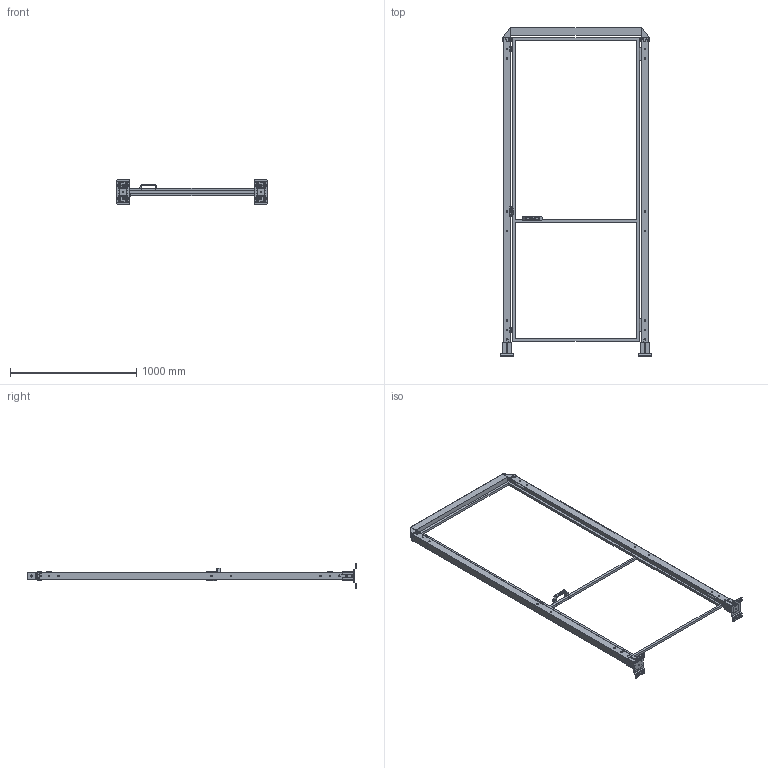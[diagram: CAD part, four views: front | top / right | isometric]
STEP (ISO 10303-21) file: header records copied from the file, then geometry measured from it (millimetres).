
FILE_DESCRIPTION(('STEP AP242'),'1');
FILE_NAME('vfda_bscncr2_10002520.stp','2025-01-31T11:16:05',('TraceParts'),('TraceParts S.A.'),'Spatial InterOp 3D',' ',' ');
FILE_SCHEMA(('AP242_MANAGED_MODEL_BASED_3D_ENGINEERING_MIM_LF {1 0 10303 442 1 1 4}'));
Length unit declared in the file: millimetre
Products named in the file (1): vfda_bscncr2_10002520_1
Bounding box: 1190 x 2601 x 192 mm (x, y, z)
Volume: 5762552.4 mm3; surface area: 3760460 mm2
Topology: 12 solids, 12 shells, 1942 faces, 5208 edges, 3340 vertices
Faces by surface type: plane 950, cylinder 652, bspline 236, cone 60, torus 40, sphere 4
Entity records: 78408 total; most frequent: CARTESIAN_POINT 14215, ORIENTED_EDGE 10408, DIRECTION 9578, EDGE_CURVE 5204, VERTEX_POINT 3340, LINE 3216, VECTOR 3216, AXIS2_PLACEMENT_3D 3181
